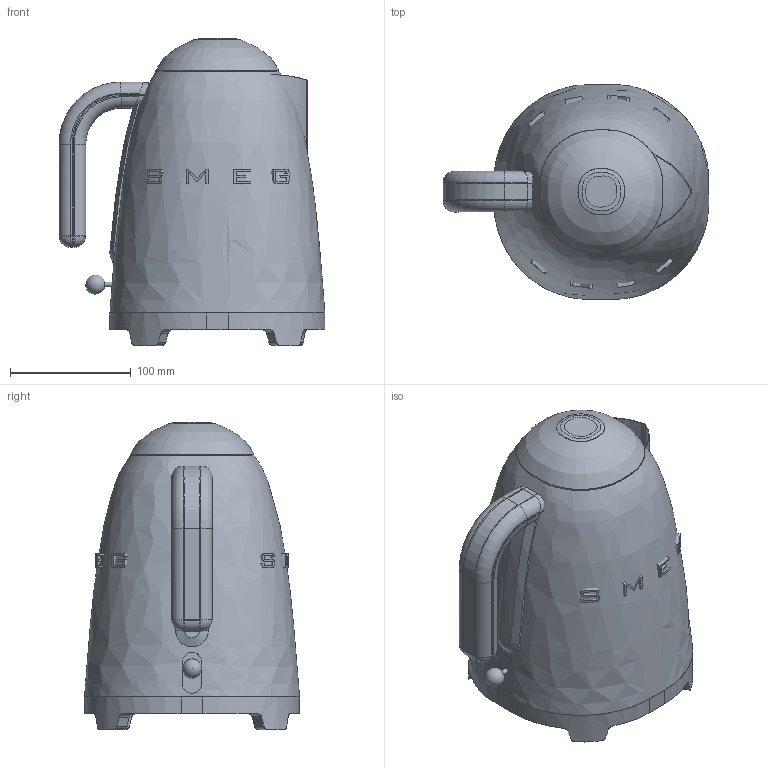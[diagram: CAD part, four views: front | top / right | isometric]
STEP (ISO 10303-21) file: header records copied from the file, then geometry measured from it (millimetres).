
FILE_DESCRIPTION(/* description */ (''),/* implementation_level */ '2;1');
FILE_NAME(/* name */ 'bollitore klf03.stp',/* time_stamp */ '2018-09-20T12:04:54+02:00',/* author */ (''),/* organization */ (''),/* preprocessor_version */ 'ST-DEVELOPER v16',/* originating_system */ 'SIEMENS PLM Software NX 11.0',/* authorisation */ '');
FILE_SCHEMA (('AUTOMOTIVE_DESIGN { 1 0 10303 214 3 1 1 1 }'));
Length unit declared in the file: millimetre
Products named in the file (1): gobb80D85F20cgle
Bounding box: 220.01 x 178 x 254.17 mm (x, y, z)
Volume: 4782611.8 mm3; surface area: 359036.1 mm2
Topology: 19 solids, 19 shells, 290 faces, 724 edges, 469 vertices
Faces by surface type: plane 166, cylinder 70, extrusion 26, bspline 18, sphere 5, torus 4, cone 1
Full cylindrical faces by diameter (mm): 4 x1
Entity records: 12550 total; most frequent: CARTESIAN_POINT 6182, ORIENTED_EDGE 1420, DIRECTION 1020, EDGE_CURVE 710, VERTEX_POINT 465, AXIS2_PLACEMENT_3D 359, B_SPLINE_CURVE_WITH_KNOTS 335, VECTOR 302
